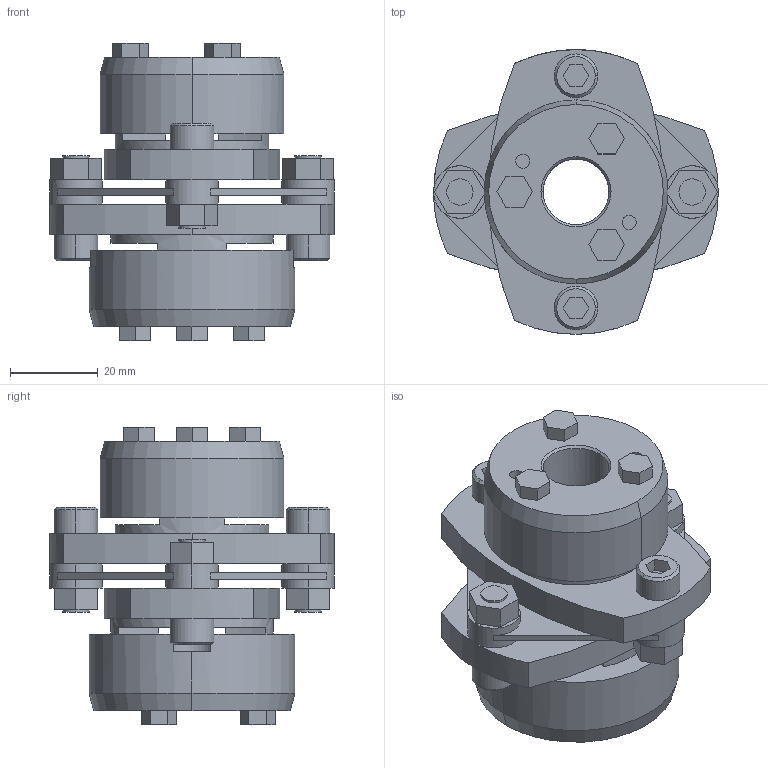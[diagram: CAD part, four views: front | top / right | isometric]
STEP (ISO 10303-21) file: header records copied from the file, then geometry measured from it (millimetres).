
FILE_DESCRIPTION((''),'2;1');
FILE_NAME('LCS-65T7-15×18.stp','2011-08-23T13:10:02',(''),(''),'AutoCAD STEP 2000i','AutoCAD 2000i',', , ');
FILE_SCHEMA(('CONFIG_CONTROL_DESIGN'));
Length unit declared in the file: millimetre
Products named in the file (6): LCS-65T7-15×17; 忣兜1; LC65T7-T017; LC65T7-T015-1; LC65T7-T015; LCS65-ITA
Assembly tree (5 placements, depth 2):
  LCS-65T7-15×17
    忣兜1
    LC65T7-T017
    LC65T7-T015-1
    LC65T7-T015
    LCS65-ITA
Bounding box: 65 x 65 x 67.9 mm (x, y, z)
Volume: 87267 mm3; surface area: 29178.4 mm2
Topology: 1 solids, 1 shells, 224 faces, 575 edges, 375 vertices
Faces by surface type: plane 134, cylinder 70, cone 20
Entity records: 7023 total; most frequent: DIRECTION 1238, CARTESIAN_POINT 1180, ORIENTED_EDGE 1150, EDGE_CURVE 575, AXIS2_PLACEMENT_3D 433, VERTEX_POINT 375, VECTOR 372, LINE 372
